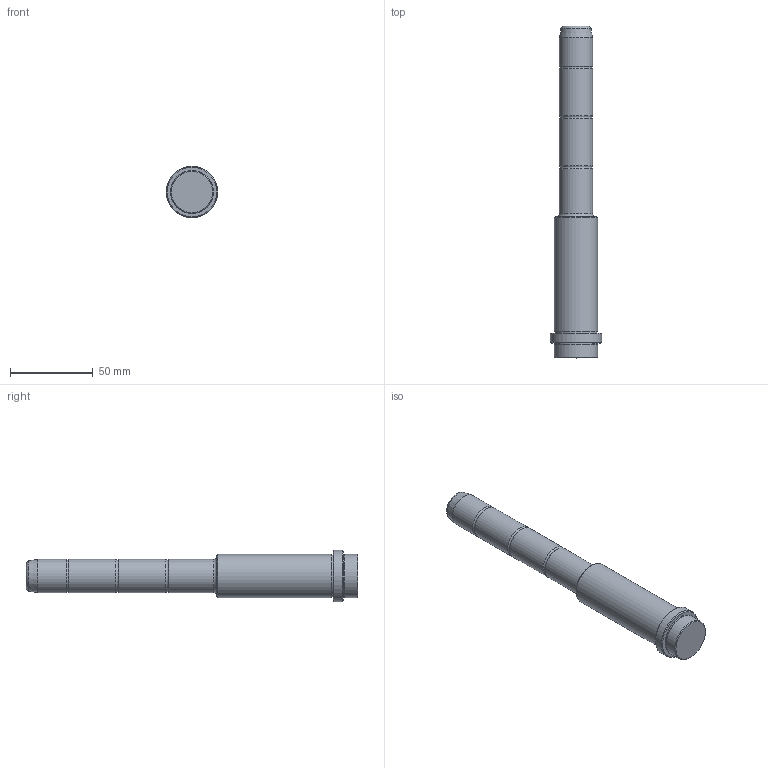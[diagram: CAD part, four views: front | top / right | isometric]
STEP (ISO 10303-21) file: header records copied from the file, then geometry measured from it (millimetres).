
FILE_DESCRIPTION( ( 'STEP AP203' ), '1' );
FILE_NAME( 'D:/Cuma/24 03 2009/D03/D03_20X76X115.step', '2002-12-31T23:27:53', ( ' ' ), ( ' ' ), 'XStep 1.0', ' ', ' ' );
FILE_SCHEMA( ( 'CONFIG_CONTROL_DESIGN' ) );
Length unit declared in the file: metre
Products named in the file (1): 1
Bounding box: 31 x 200 x 31 mm (x, y, z)
Volume: 82168.3 mm3; surface area: 15621.2 mm2
Topology: 1 solids, 1 shells, 26 faces, 47 edges, 28 vertices
Faces by surface type: cylinder 9, plane 7, torus 5, cone 5
Full cylindrical faces by diameter (mm): 20 x4, 25.5 x2, 26 x2, 31 x1
Entity records: 559 total; most frequent: DIRECTION 104, CARTESIAN_POINT 77, AXIS2_PLACEMENT_3D 52, EDGE_LOOP 50, ORIENTED_EDGE 50, FACE_OUTER_BOUND 40, ADVANCED_FACE 26, EDGE_CURVE 25
